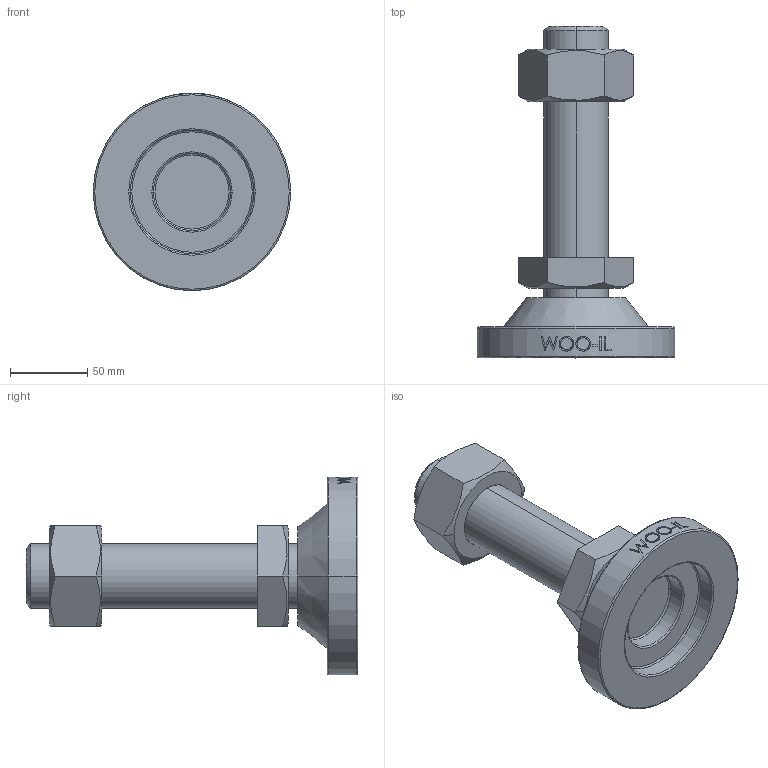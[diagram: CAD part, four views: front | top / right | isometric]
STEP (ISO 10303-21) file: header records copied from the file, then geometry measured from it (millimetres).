
FILE_DESCRIPTION (( 'STEP AP214' ), '1' );
FILE_NAME ('MFU128-M42-150.step', '2021-01-21T06:13:24', ( '' ), ( '' ), 'SwSTEP 2.0', 'SolidWorks 2019', '' );
FILE_SCHEMA (( 'AUTOMOTIVE_DESIGN' ));
Length unit declared in the file: millimetre
Products named in the file (2): MFU128-M42-150
Bounding box: 128 x 215 x 128 mm (x, y, z)
Volume: 631405.8 mm3; surface area: 85363.5 mm2
Topology: 2 solids, 2 shells, 111 faces, 255 edges, 162 vertices
Faces by surface type: plane 49, cylinder 20, bspline 16, cone 14, torus 12
Entity records: 4773 total; most frequent: CARTESIAN_POINT 2312, ORIENTED_EDGE 510, DIRECTION 471, EDGE_CURVE 255, AXIS2_PLACEMENT_3D 185, VERTEX_POINT 162, EDGE_LOOP 127, FACE_OUTER_BOUND 111
